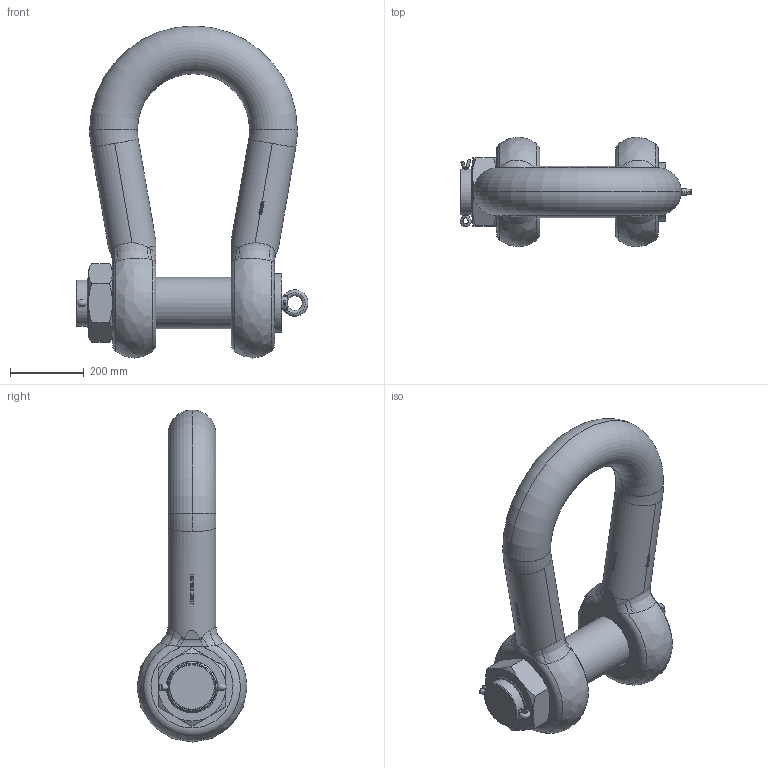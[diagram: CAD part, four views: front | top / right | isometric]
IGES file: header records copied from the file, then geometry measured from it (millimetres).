
Global section: file name: No Iges File Name specified; native system: Autodesk Inventor 2009; preprocessor: AutoDesk Inventor Iges Exporter R2009; author: Jack; date: 20091212.143841; units: millimetre
Bounding box: 631.2 x 299 x 903.5 mm (x, y, z)
Volume: 38248304.2 mm3; surface area: 1454829.6 mm2
Topology: 5 solids, 5 shells, 828 faces, 2221 edges, 1457 vertices
Faces by surface type: plane 397, bspline 248, cylinder 105, revolution 36, torus 22, cone 20
Full cylindrical faces by diameter (mm): 140 x13
